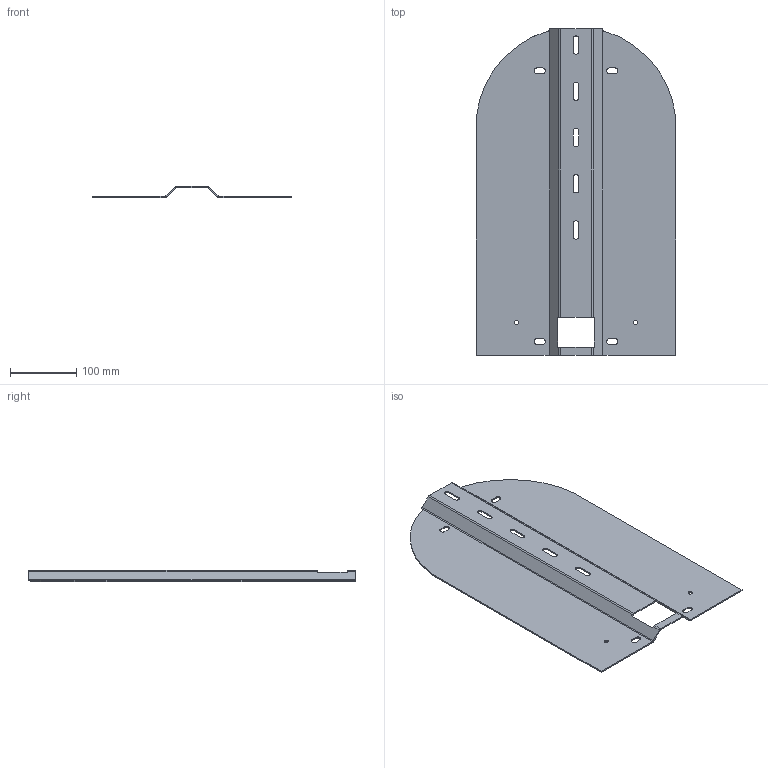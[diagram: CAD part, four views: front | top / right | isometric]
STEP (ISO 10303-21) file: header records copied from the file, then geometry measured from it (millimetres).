
FILE_DESCRIPTION((''),'2;1');
FILE_NAME('1720160081685_ASM','2024-07-05T11:44:45',('SESA739797'),('Schneider-Electric'),'CREO PARAMETRIC BY PTC INC, 2021284','CREO PARAMETRIC BY PTC INC, 2021284','');
FILE_SCHEMA(('AP242_MANAGED_MODEL_BASED_3D_ENGINEERING_MIM_LF { 1 0 10303 442 1 1 4 }'));
Length unit declared in the file: millimetre
Products named in the file (4): EMPTYNODE_1720160081715_ASM; BQT1358501-3D; BQT1358501-3D_ASM; 1720160081685_ASM
Assembly tree (3 placements, depth 3):
  1720160081685_ASM
    EMPTYNODE_1720160081715_ASM
    BQT1358501-3D_ASM
      BQT1358501-3D
Bounding box: 302 x 495 x 17 mm (x, y, z)
Volume: 284242.7 mm3; surface area: 288823.7 mm2
Topology: 1 solids, 1 shells, 76 faces, 226 edges, 150 vertices
Faces by surface type: plane 40, cylinder 36
Entity records: 3487 total; most frequent: CARTESIAN_POINT 480, DIRECTION 462, ORIENTED_EDGE 452, PRESENTATION_STYLE_ASSIGNMENT 227, STYLED_ITEM 227, CURVE_STYLE 226, EDGE_CURVE 226, AXIS2_PLACEMENT_3D 156
